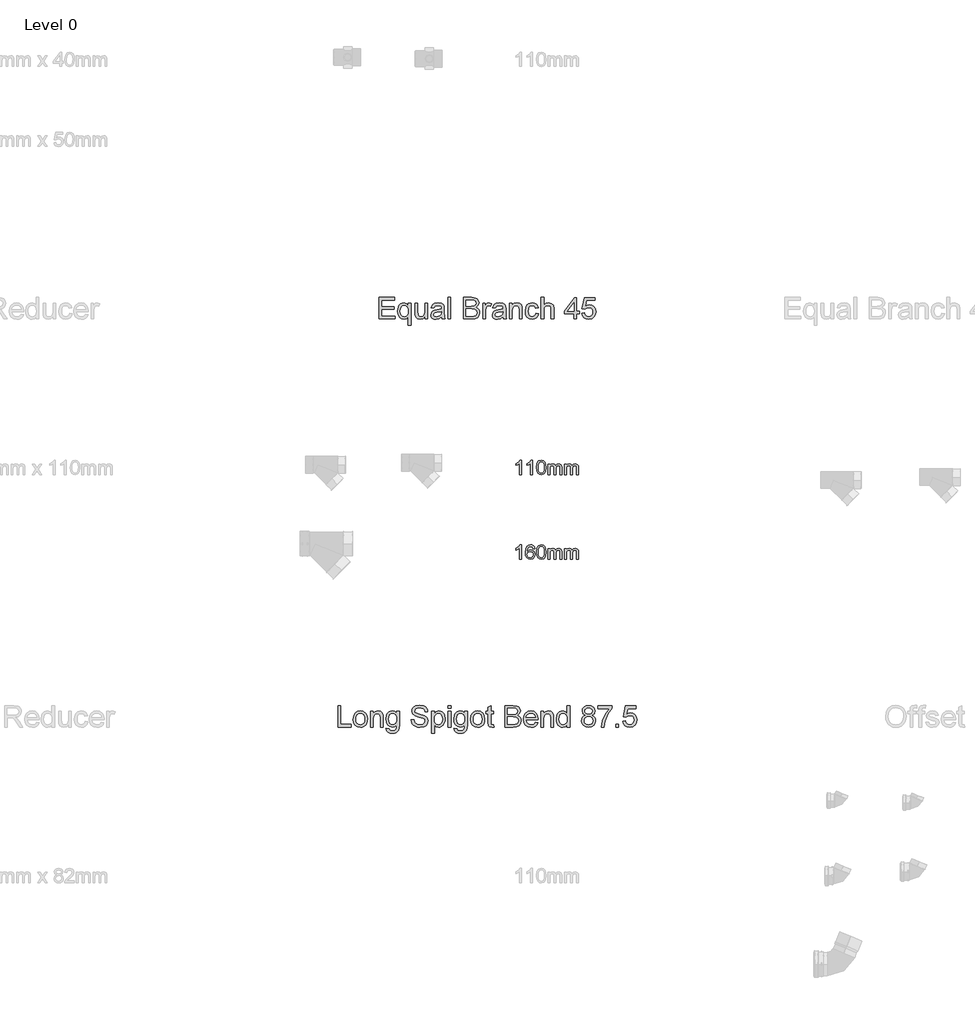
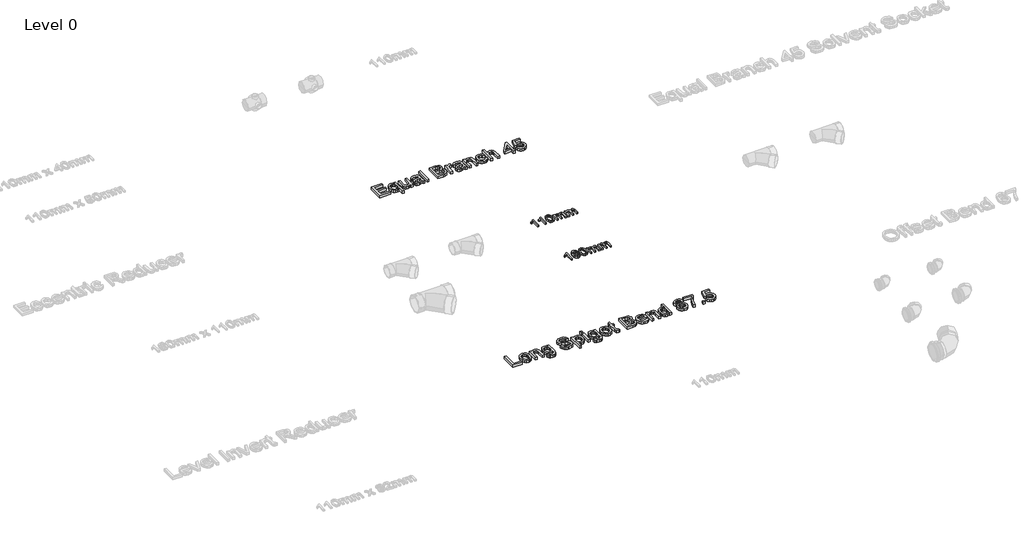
# One storey, part 15 of 28: 4 proxies.
"""IFC4 building model written with IfcOpenShell, lengths in millimetres."""

from ifc_helpers import new_model, si_unit, origin, origin_with_axes, place, context, project, spatial, polyline, outline, extrude, element, save

model = new_model("IFC4")

# Units and contexts
model_context = context("Model", 3, world=origin())
ifc_project = project(units=[si_unit("LENGTHUNIT", "METRE", prefix="MILLI")], contexts=[model_context])

# Site, building, storey
site = spatial("IfcSite", under=ifc_project)
building = spatial("IfcBuilding", under=site)
storey = spatial("IfcBuildingStorey", under=building, Name="Level 0", Elevation=0.0)

# Proxies
placement = place(None, origin())
element("IfcBuildingElementProxy", 1, Name="100mm Arial", ObjectType="100mm Arial", at=placement, inside=storey, context=model_context, shape_type="SweptSolid", body=[
    extrude(outline(polyline([(-13791.7293188, 2637.7167304), (-13804.0370111, 2637.7167304), (-13804.0370111, 2714.4474996), (-13815.6956649, 2706.1422111), (-13828.6523957, 2699.9282688), (-13828.6523957, 2711.5628842), (-13810.6115303, 2723.0773073), (-13799.6620111, 2736.1782688), (-13791.7293188, 2736.1782688), (-13791.7293188, 2637.7167304)])), origin_with_axes(), (0.0, 0.0, 1.0), 15.0),
    extrude(outline(polyline([(-13716.3447034, 2637.7167304), (-13728.6523957, 2637.7167304), (-13728.6523957, 2714.4474996), (-13740.3110495, 2706.1422111), (-13753.2677803, 2699.9282688), (-13753.2677803, 2711.5628842), (-13735.2269149, 2723.0773073), (-13724.2773957, 2736.1782688), (-13716.3447034, 2736.1782688), (-13716.3447034, 2637.7167304)])), origin_with_axes(), (0.0, 0.0, 1.0), 15.0),
    extrude(outline(polyline([(-13687.1139341, 2686.1542304), (-13683.4961457, 2714.4835573), (-13672.7509534, 2730.8176919), (-13654.8062418, 2736.1782688), (-13640.4312418, 2733.0051919), (-13630.5033572, 2723.8585573), (-13624.7341264, 2709.2912496), (-13622.4985495, 2686.1542304), (-13626.0802803, 2657.9450958), (-13636.7894149, 2641.5749035), (-13654.8062418, 2636.1782688), (-13667.5947034, 2638.5220188), (-13677.3062418, 2645.5532688), (-13684.6620111, 2662.2059131), (-13687.1139341, 2686.1542304)]), holes=[polyline([(-13674.8062418, 2686.1782688), (-13673.3639341, 2666.8182929), (-13669.0370111, 2655.613365), (-13662.5947034, 2650.2678121), (-13654.8062418, 2648.4859611), (-13647.0177803, 2650.2738217), (-13640.5754726, 2655.6374035), (-13636.2485495, 2666.848341), (-13634.8062418, 2686.1782688), (-13636.2004726, 2705.1025477), (-13640.3831649, 2716.394615), (-13646.8134534, 2722.0015861), (-13654.9504726, 2723.8705765), (-13662.6547995, 2722.2239419), (-13668.8447034, 2717.2840381), (-13673.3158572, 2705.2888458), (-13674.8062418, 2686.1782688)])]), origin_with_axes(), (0.0, 0.0, 1.0), 15.0),
    extrude(outline(polyline([(-13608.6523957, 2637.7167304), (-13608.6523957, 2710.0244227), (-13596.3447034, 2710.0244227), (-13596.3447034, 2698.1253842), (-13587.8831649, 2707.8729804), (-13575.8398957, 2711.5628842), (-13563.5081649, 2707.800865), (-13556.7293188, 2697.2599996), (-13547.1259534, 2707.9871631), (-13534.9985495, 2711.5628842), (-13525.7467466, 2710.0755044), (-13518.9047995, 2705.613365), (-13514.6770351, 2698.0562736), (-13513.2677803, 2687.2840381), (-13513.2677803, 2637.7167304), (-13525.5754726, 2637.7167304), (-13525.5754726, 2681.9955765), (-13526.7172995, 2692.2720188), (-13530.8519149, 2697.332115), (-13537.8831649, 2699.2551919), (-13549.9865303, 2694.3273073), (-13554.8062418, 2678.5340381), (-13554.8062418, 2637.7167304), (-13567.1139341, 2637.7167304), (-13567.1139341, 2683.3657688), (-13569.9624918, 2695.2888458), (-13579.3014341, 2699.2551919), (-13588.4120111, 2696.6109611), (-13594.4697034, 2688.8705765), (-13596.3447034, 2674.1830765), (-13596.3447034, 2637.7167304), (-13608.6523957, 2637.7167304)])), origin_with_axes(), (0.0, 0.0, 1.0), 15.0),
    extrude(outline(polyline([(-13494.8062418, 2637.7167304), (-13494.8062418, 2710.0244227), (-13482.4985495, 2710.0244227), (-13482.4985495, 2698.1253842), (-13474.0370111, 2707.8729804), (-13461.9937418, 2711.5628842), (-13449.6620111, 2707.800865), (-13442.8831649, 2697.2599996), (-13433.2797995, 2707.9871631), (-13421.1523957, 2711.5628842), (-13411.9005928, 2710.0755044), (-13405.0586457, 2705.613365), (-13400.8308813, 2698.0562736), (-13399.4216264, 2687.2840381), (-13399.4216264, 2637.7167304), (-13411.7293188, 2637.7167304), (-13411.7293188, 2681.9955765), (-13412.8711457, 2692.2720188), (-13417.0057611, 2697.332115), (-13424.0370111, 2699.2551919), (-13436.1403764, 2694.3273073), (-13440.960088, 2678.5340381), (-13440.960088, 2637.7167304), (-13453.2677803, 2637.7167304), (-13453.2677803, 2683.3657688), (-13456.116338, 2695.2888458), (-13465.4552803, 2699.2551919), (-13474.5658572, 2696.6109611), (-13480.6235495, 2688.8705765), (-13482.4985495, 2674.1830765), (-13482.4985495, 2637.7167304), (-13494.8062418, 2637.7167304)])), origin_with_axes(), (0.0, 0.0, 1.0), 15.0),
])
element("IfcBuildingElementProxy", 2, Name="100mm Arial", ObjectType="100mm Arial", at=placement, inside=storey, context=model_context, shape_type="SweptSolid", body=[
    extrude(outline(polyline([(-13791.7293188, 2057.7167304), (-13804.0370111, 2057.7167304), (-13804.0370111, 2134.4474996), (-13815.6956649, 2126.1422111), (-13828.6523957, 2119.9282688), (-13828.6523957, 2131.5628842), (-13810.6115303, 2143.0773073), (-13799.6620111, 2156.1782688), (-13791.7293188, 2156.1782688), (-13791.7293188, 2057.7167304)])), origin_with_axes(), (0.0, 0.0, 1.0), 15.0),
    extrude(outline(polyline([(-13699.4216264, 2130.0244227), (-13711.7293188, 2128.4859611), (-13716.3927803, 2138.7503842), (-13728.7245111, 2143.8705765), (-13739.8302803, 2140.8898073), (-13748.2317226, 2129.6999035), (-13751.7293188, 2107.7648073), (-13740.8759534, 2117.5845188), (-13727.4264341, 2120.7936535), (-13716.0562418, 2118.6001438), (-13706.5129726, 2112.019615), (-13700.0406168, 2101.9655285), (-13697.8831649, 2089.3513458), (-13701.9456649, 2072.3681727), (-13713.1235495, 2060.3489419), (-13729.2533572, 2056.1782688), (-13743.2166986, 2058.9426919), (-13754.3374918, 2067.2359611), (-13761.6121313, 2081.8753842), (-13764.0370111, 2103.6782688), (-13761.3447034, 2128.19149), (-13753.2677803, 2144.9523073), (-13742.2401361, 2153.3717785), (-13727.9552803, 2156.1782688), (-13717.1560014, 2154.44149), (-13708.5081649, 2149.2311535), (-13702.4504726, 2140.9559131), (-13699.4216264, 2130.0244227)]), holes=[polyline([(-13751.7293188, 2089.5436535), (-13748.8807611, 2078.8825958), (-13741.3086457, 2071.1422111), (-13730.2148957, 2068.4859611), (-13722.0929005, 2069.8621631), (-13715.7076841, 2073.9907688), (-13711.5700639, 2080.4811535), (-13710.1908572, 2088.9426919), (-13711.5520351, 2097.0646871), (-13715.6355688, 2103.2575958), (-13730.7197034, 2108.4859611), (-13745.6115303, 2103.2575958), (-13750.1998716, 2097.2149275), (-13751.7293188, 2089.5436535)])]), origin_with_axes(), (0.0, 0.0, 1.0), 15.0),
    extrude(outline(polyline([(-13687.1139341, 2106.1542304), (-13683.4961457, 2134.4835573), (-13672.7509534, 2150.8176919), (-13654.8062418, 2156.1782688), (-13640.4312418, 2153.0051919), (-13630.5033572, 2143.8585573), (-13624.7341264, 2129.2912496), (-13622.4985495, 2106.1542304), (-13626.0802803, 2077.9450958), (-13636.7894149, 2061.5749035), (-13654.8062418, 2056.1782688), (-13667.5947034, 2058.5220188), (-13677.3062418, 2065.5532688), (-13684.6620111, 2082.2059131), (-13687.1139341, 2106.1542304)]), holes=[polyline([(-13674.8062418, 2106.1782688), (-13673.3639341, 2086.8182929), (-13669.0370111, 2075.613365), (-13662.5947034, 2070.2678121), (-13654.8062418, 2068.4859611), (-13647.0177803, 2070.2738217), (-13640.5754726, 2075.6374035), (-13636.2485495, 2086.848341), (-13634.8062418, 2106.1782688), (-13636.2004726, 2125.1025477), (-13640.3831649, 2136.394615), (-13646.8134534, 2142.0015861), (-13654.9504726, 2143.8705765), (-13662.6547995, 2142.2239419), (-13668.8447034, 2137.2840381), (-13673.3158572, 2125.2888458), (-13674.8062418, 2106.1782688)])]), origin_with_axes(), (0.0, 0.0, 1.0), 15.0),
    extrude(outline(polyline([(-13608.6523957, 2057.7167304), (-13608.6523957, 2130.0244227), (-13596.3447034, 2130.0244227), (-13596.3447034, 2118.1253842), (-13587.8831649, 2127.8729804), (-13575.8398957, 2131.5628842), (-13563.5081649, 2127.800865), (-13556.7293188, 2117.2599996), (-13547.1259534, 2127.9871631), (-13534.9985495, 2131.5628842), (-13525.7467466, 2130.0755044), (-13518.9047995, 2125.613365), (-13514.6770351, 2118.0562736), (-13513.2677803, 2107.2840381), (-13513.2677803, 2057.7167304), (-13525.5754726, 2057.7167304), (-13525.5754726, 2101.9955765), (-13526.7172995, 2112.2720188), (-13530.8519149, 2117.332115), (-13537.8831649, 2119.2551919), (-13549.9865303, 2114.3273073), (-13554.8062418, 2098.5340381), (-13554.8062418, 2057.7167304), (-13567.1139341, 2057.7167304), (-13567.1139341, 2103.3657688), (-13569.9624918, 2115.2888458), (-13579.3014341, 2119.2551919), (-13588.4120111, 2116.6109611), (-13594.4697034, 2108.8705765), (-13596.3447034, 2094.1830765), (-13596.3447034, 2057.7167304), (-13608.6523957, 2057.7167304)])), origin_with_axes(), (0.0, 0.0, 1.0), 15.0),
    extrude(outline(polyline([(-13494.8062418, 2057.7167304), (-13494.8062418, 2130.0244227), (-13482.4985495, 2130.0244227), (-13482.4985495, 2118.1253842), (-13474.0370111, 2127.8729804), (-13461.9937418, 2131.5628842), (-13449.6620111, 2127.800865), (-13442.8831649, 2117.2599996), (-13433.2797995, 2127.9871631), (-13421.1523957, 2131.5628842), (-13411.9005928, 2130.0755044), (-13405.0586457, 2125.613365), (-13400.8308813, 2118.0562736), (-13399.4216264, 2107.2840381), (-13399.4216264, 2057.7167304), (-13411.7293188, 2057.7167304), (-13411.7293188, 2101.9955765), (-13412.8711457, 2112.2720188), (-13417.0057611, 2117.332115), (-13424.0370111, 2119.2551919), (-13436.1403764, 2114.3273073), (-13440.960088, 2098.5340381), (-13440.960088, 2057.7167304), (-13453.2677803, 2057.7167304), (-13453.2677803, 2103.3657688), (-13456.116338, 2115.2888458), (-13465.4552803, 2119.2551919), (-13474.5658572, 2116.6109611), (-13480.6235495, 2108.8705765), (-13482.4985495, 2094.1830765), (-13482.4985495, 2057.7167304), (-13494.8062418, 2057.7167304)])), origin_with_axes(), (0.0, 0.0, 1.0), 15.0),
])
element("IfcBuildingElementProxy", 3, Name="150mm Arial", ObjectType="150mm Arial", at=placement, inside=storey, context=model_context, shape_type="SweptSolid", body=[
    extrude(outline(polyline([(-14768.6818358, 3705.2145219), (-14768.6818358, 3852.9068296), (-14662.5279897, 3852.9068296), (-14662.5279897, 3834.4452911), (-14750.2202973, 3834.4452911), (-14750.2202973, 3790.5991373), (-14667.1433743, 3790.5991373), (-14667.1433743, 3772.1375988), (-14750.2202973, 3772.1375988), (-14750.2202973, 3723.6760604), (-14660.2202973, 3723.6760604), (-14660.2202973, 3705.2145219), (-14768.6818358, 3705.2145219)])), origin_with_axes(), (0.0, 0.0, 1.0), 25.0),
    extrude(outline(polyline([(-14567.912605, 3663.6760604), (-14567.912605, 3719.9981758), (-14579.631355, 3707.7746181), (-14595.6409704, 3702.9068296), (-14613.1920522, 3706.7514811), (-14628.1289512, 3718.2854354), (-14638.351307, 3736.5171061), (-14641.7587589, 3760.4549065), (-14636.350105, 3789.697695), (-14629.7245041, 3801.0738969), (-14620.6650089, 3809.3130796), (-14609.8927733, 3814.3160844), (-14598.1289512, 3815.9837527), (-14580.9654897, 3810.8094738), (-14567.912605, 3795.2866373), (-14567.912605, 3813.6760604), (-14549.4510666, 3813.6760604), (-14549.4510666, 3663.6760604), (-14567.912605, 3663.6760604)]), holes=[polyline([(-14623.2972204, 3759.4452911), (-14621.2193959, 3742.7866373), (-14614.9859223, 3730.8875988), (-14605.8498046, 3723.7481758), (-14595.0640473, 3721.3683681), (-14584.7290113, 3723.6309883), (-14575.9354416, 3730.4188488), (-14569.9183142, 3741.8311085), (-14567.912605, 3757.9669258), (-14570.0264872, 3775.2160243), (-14576.3681339, 3787.58832), (-14585.5583382, 3795.0387407), (-14596.2178935, 3797.5222142), (-14606.6791315, 3795.2100147), (-14615.4186147, 3788.2734161), (-14621.327569, 3776.4419859), (-14623.2972204, 3759.4452911)])]), origin_with_axes(), (0.0, 0.0, 1.0), 25.0),
    extrude(outline(polyline([(-14452.5279897, 3705.2145219), (-14452.5279897, 3723.8563488), (-14466.9871243, 3708.1442094), (-14485.8452973, 3702.9068296), (-14503.2070762, 3706.5847142), (-14515.17823, 3715.8154835), (-14520.6770281, 3729.4092335), (-14521.7587589, 3746.572695), (-14521.7587589, 3813.6760604), (-14503.2972204, 3813.6760604), (-14503.2972204, 3755.2625988), (-14502.179432, 3736.4404835), (-14494.8777493, 3725.3888008), (-14481.1217397, 3721.3683681), (-14465.7070762, 3725.478945), (-14455.5207781, 3736.6748585), (-14452.5279897, 3757.2457719), (-14452.5279897, 3813.6760604), (-14434.0664512, 3813.6760604), (-14434.0664512, 3705.2145219), (-14452.5279897, 3705.2145219)])), origin_with_axes(), (0.0, 0.0, 1.0), 25.0),
    extrude(outline(polyline([(-14339.4510666, 3719.0606758), (-14357.3537108, 3706.5486565), (-14377.131355, 3702.9068296), (-14392.5595401, 3705.0973344), (-14403.9402493, 3711.6688488), (-14410.9579776, 3721.6478152), (-14413.2972204, 3734.0606758), (-14409.7635666, 3748.6640411), (-14400.4787108, 3759.2650027), (-14387.5520281, 3765.322695), (-14371.5784704, 3768.0991373), (-14339.5592397, 3774.4452911), (-14339.4510666, 3778.5558681), (-14340.7221002, 3786.7950508), (-14344.5352012, 3792.1856758), (-14353.0628454, 3796.1880796), (-14364.943855, 3797.5222142), (-14383.6217397, 3793.9705315), (-14392.5279897, 3781.3683681), (-14410.9895281, 3783.6760604), (-14403.0027493, 3801.7049065), (-14386.9210185, 3812.2698104), (-14362.5640473, 3815.9837527), (-14340.1902493, 3812.7025027), (-14327.5520281, 3804.46332), (-14321.8909704, 3791.9332719), (-14320.9895281, 3775.7794258), (-14320.9895281, 3752.8106758), (-14320.0520281, 3720.7373585), (-14316.3741435, 3705.2145219), (-14334.835682, 3705.2145219), (-14339.4510666, 3719.0606758)]), holes=[polyline([(-14339.4510666, 3755.9837527), (-14369.2347204, 3750.322695), (-14385.1181339, 3747.3299065), (-14392.3116435, 3742.4621181), (-14394.835682, 3735.3587527), (-14389.3368839, 3725.3707719), (-14373.2010666, 3721.3683681), (-14354.523182, 3725.7854354), (-14342.4799127, 3736.4765411), (-14339.5592397, 3750.7553873), (-14339.4510666, 3755.9837527)])]), origin_with_axes(), (0.0, 0.0, 1.0), 25.0),
    extrude(outline(polyline([(-14295.6049127, 3705.2145219), (-14295.6049127, 3852.9068296), (-14277.1433743, 3852.9068296), (-14277.1433743, 3705.2145219), (-14295.6049127, 3705.2145219)])), origin_with_axes(), (0.0, 0.0, 1.0), 25.0),
    extrude(outline(polyline([(-14189.4510666, 3705.2145219), (-14189.4510666, 3852.9068296), (-14133.0928935, 3852.9068296), (-14105.49073, 3848.5618777), (-14096.2148887, 3843.049558), (-14089.1926531, 3835.2025027), (-14083.2972204, 3816.3082719), (-14088.2551531, 3799.0546661), (-14103.2371243, 3785.9837527), (-14092.7758863, 3780.5210123), (-14085.0460185, 3772.2097142), (-14080.2728815, 3761.5997383), (-14078.6818358, 3749.2409642), (-14083.0267877, 3729.3912046), (-14093.7900089, 3715.2565892), (-14109.8537108, 3707.7565892), (-14133.5255858, 3705.2145219), (-14189.4510666, 3705.2145219)]), holes=[polyline([(-14170.9895281, 3723.6760604), (-14133.1289512, 3723.6760604), (-14119.4270281, 3724.3972142), (-14107.83448, 3728.4176469), (-14100.1541916, 3736.6207719), (-14097.1433743, 3749.0606758), (-14100.6770281, 3763.4116373), (-14112.1253454, 3771.9753392), (-14134.9318358, 3774.4452911), (-14170.9895281, 3774.4452911), (-14170.9895281, 3723.6760604)]), polyline([(-14170.9895281, 3792.9068296), (-14137.2755858, 3792.9068296), (-14117.5880858, 3794.4933681), (-14105.7431339, 3801.3263008), (-14101.7587589, 3813.3515411), (-14105.4727012, 3825.3948104), (-14116.1097204, 3832.5162046), (-14139.835682, 3834.4452911), (-14170.9895281, 3834.4452911), (-14170.9895281, 3792.9068296)])]), origin_with_axes(), (0.0, 0.0, 1.0), 25.0),
    extrude(outline(polyline([(-14055.6049127, 3705.2145219), (-14055.6049127, 3813.6760604), (-14039.4510666, 3813.6760604), (-14039.4510666, 3797.6303873), (-14027.9847204, 3812.4140411), (-14016.4462589, 3815.9837527), (-13997.912605, 3810.2866373), (-14004.0784704, 3793.7361565), (-14017.0592397, 3797.5222142), (-14027.4979416, 3793.8803873), (-14034.1505858, 3783.7842335), (-14037.1433743, 3762.2217335), (-14037.1433743, 3705.2145219), (-14055.6049127, 3705.2145219)])), origin_with_axes(), (0.0, 0.0, 1.0), 25.0),
    extrude(outline(polyline([(-13917.1433743, 3719.0606758), (-13935.0460185, 3706.5486565), (-13954.8236627, 3702.9068296), (-13970.2518478, 3705.0973344), (-13981.632557, 3711.6688488), (-13988.6502853, 3721.6478152), (-13990.9895281, 3734.0606758), (-13987.4558743, 3748.6640411), (-13978.1710185, 3759.2650027), (-13965.2443358, 3765.322695), (-13949.2707781, 3768.0991373), (-13917.2515473, 3774.4452911), (-13917.1433743, 3778.5558681), (-13918.4144079, 3786.7950508), (-13922.2275089, 3792.1856758), (-13930.7551531, 3796.1880796), (-13942.6361627, 3797.5222142), (-13961.3140473, 3793.9705315), (-13970.2202973, 3781.3683681), (-13988.6818358, 3783.6760604), (-13980.695057, 3801.7049065), (-13964.6133262, 3812.2698104), (-13940.256355, 3815.9837527), (-13917.882557, 3812.7025027), (-13905.2443358, 3804.46332), (-13899.5832781, 3791.9332719), (-13898.6818358, 3775.7794258), (-13898.6818358, 3752.8106758), (-13897.7443358, 3720.7373585), (-13894.0664512, 3705.2145219), (-13912.5279897, 3705.2145219), (-13917.1433743, 3719.0606758)]), holes=[polyline([(-13917.1433743, 3755.9837527), (-13946.9270281, 3750.322695), (-13962.8104416, 3747.3299065), (-13970.0039512, 3742.4621181), (-13972.5279897, 3735.3587527), (-13967.0291916, 3725.3707719), (-13950.8933743, 3721.3683681), (-13932.2154897, 3725.7854354), (-13920.1722204, 3736.4765411), (-13917.2515473, 3750.7553873), (-13917.1433743, 3755.9837527)])]), origin_with_axes(), (0.0, 0.0, 1.0), 25.0),
    extrude(outline(polyline([(-13873.2972204, 3705.2145219), (-13873.2972204, 3813.6760604), (-13854.835682, 3813.6760604), (-13854.835682, 3798.5318296), (-13840.7190954, 3811.6207719), (-13821.4462589, 3815.9837527), (-13804.0123647, 3812.4681277), (-13792.1133262, 3803.2373585), (-13786.5784704, 3789.6616373), (-13785.6049127, 3771.8130796), (-13785.6049127, 3705.2145219), (-13804.0664512, 3705.2145219), (-13804.0664512, 3769.3250988), (-13806.193855, 3785.6592335), (-13813.7118839, 3794.2950508), (-13826.3861627, 3797.5222142), (-13837.1989632, 3795.7103152), (-13846.4162108, 3790.2746181), (-13852.7308142, 3779.7728152), (-13854.835682, 3762.7625988), (-13854.835682, 3705.2145219), (-13873.2972204, 3705.2145219)])), origin_with_axes(), (0.0, 0.0, 1.0), 25.0),
    extrude(outline(polyline([(-13690.9895281, 3744.4452911), (-13672.5279897, 3742.1375988), (-13677.6752252, 3725.7178272), (-13687.3477012, 3713.3094738), (-13700.6349608, 3705.5074907), (-13716.6265473, 3702.9068296), (-13736.264468, 3706.5351349), (-13751.6205377, 3717.4200508), (-13761.5318959, 3735.0838128), (-13764.835682, 3759.0486565), (-13759.1926531, 3789.7157238), (-13752.0712589, 3801.2136205), (-13741.9931339, 3809.4212527), (-13729.936343, 3814.3431277), (-13716.8789512, 3815.9837527), (-13701.2794921, 3813.7301469), (-13688.8080377, 3806.9693296), (-13679.8612228, 3796.0618777), (-13674.835682, 3781.3683681), (-13693.2972204, 3779.0606758), (-13701.8609223, 3792.8888008), (-13716.7347204, 3797.5222142), (-13728.6653094, 3795.2415652), (-13738.1349608, 3788.3996181), (-13744.3143478, 3776.6267815), (-13746.3741435, 3759.5534642), (-13744.3594199, 3742.2502791), (-13738.3152493, 3730.4368777), (-13729.0168719, 3723.6354955), (-13717.2395281, 3721.3683681), (-13707.6797324, 3722.7836325), (-13699.8416916, 3727.0294258), (-13694.140069, 3734.213921), (-13690.9895281, 3744.4452911)])), origin_with_axes(), (0.0, 0.0, 1.0), 25.0),
    extrude(outline(polyline([(-13656.3741435, 3705.2145219), (-13656.3741435, 3852.9068296), (-13637.912605, 3852.9068296), (-13637.912605, 3798.603945), (-13623.5165714, 3811.6388008), (-13605.7852012, 3815.9837527), (-13585.0520281, 3811.2421661), (-13572.4678935, 3798.135195), (-13568.6818358, 3773.8683681), (-13568.6818358, 3705.2145219), (-13587.1433743, 3705.2145219), (-13587.1433743, 3771.9573104), (-13588.6127252, 3783.5138008), (-13593.0207781, 3791.4284642), (-13600.1241435, 3795.9987767), (-13609.679432, 3797.5222142), (-13624.8056339, 3793.4116373), (-13634.9017877, 3782.2698104), (-13637.912605, 3762.8347142), (-13637.912605, 3705.2145219), (-13656.3741435, 3705.2145219)])), origin_with_axes(), (0.0, 0.0, 1.0), 25.0),
    extrude(outline(polyline([(-13430.2202973, 3705.2145219), (-13430.2202973, 3739.8299065), (-13497.1433743, 3739.8299065), (-13497.1433743, 3758.291445), (-13425.6049127, 3850.5991373), (-13411.7587589, 3850.5991373), (-13411.7587589, 3758.291445), (-13393.2972204, 3758.291445), (-13393.2972204, 3739.8299065), (-13411.7587589, 3739.8299065), (-13411.7587589, 3705.2145219), (-13430.2202973, 3705.2145219)]), holes=[polyline([(-13430.2202973, 3758.291445), (-13430.2202973, 3815.3347142), (-13474.4270281, 3758.291445), (-13430.2202973, 3758.291445)])]), origin_with_axes(), (0.0, 0.0, 1.0), 25.0),
    extrude(outline(polyline([(-13377.1433743, 3744.4452911), (-13358.6818358, 3746.7529835), (-13355.2924127, 3735.6697503), (-13349.3789512, 3727.7325508), (-13340.9684945, 3722.9594137), (-13330.0880858, 3721.3683681), (-13316.8549127, 3723.5814089), (-13306.9390473, 3730.2205315), (-13300.7461387, 3740.5195099), (-13298.6818358, 3753.7121181), (-13300.6154296, 3766.1339931), (-13306.4162108, 3775.635195), (-13316.1292517, 3781.665844), (-13329.7996243, 3783.6760604), (-13346.007557, 3780.4669258), (-13356.3741435, 3772.1375988), (-13374.835682, 3774.4452911), (-13358.6818358, 3850.5991373), (-13287.1433743, 3850.5991373), (-13287.1433743, 3832.1375988), (-13343.7539512, 3832.1375988), (-13351.6505858, 3791.4645219), (-13338.4624848, 3799.4693296), (-13324.6433743, 3802.1375988), (-13307.3942757, 3798.8293056), (-13293.0748647, 3788.9044258), (-13283.4339392, 3773.7782238), (-13280.2202973, 3754.8659642), (-13283.1139272, 3736.4044258), (-13291.7948166, 3720.6111565), (-13308.4174127, 3707.3329113), (-13330.1602012, 3702.9068296), (-13348.2927132, 3705.7508801), (-13362.7383262, 3714.2830315), (-13372.6406699, 3727.5116974), (-13377.1433743, 3744.4452911)])), origin_with_axes(), (0.0, 0.0, 1.0), 25.0),
])
element("IfcBuildingElementProxy", 4, Name="150mm Arial", ObjectType="150mm Arial", at=placement, inside=storey, context=model_context, shape_type="SweptSolid", body=[
    extrude(outline(polyline([(-15051.3741435, 905.2145219), (-15051.3741435, 1052.9068296), (-15032.912605, 1052.9068296), (-15032.912605, 923.6760604), (-14959.0664512, 923.6760604), (-14959.0664512, 905.2145219), (-15051.3741435, 905.2145219)])), origin_with_axes(), (0.0, 0.0, 1.0), 25.0),
    extrude(outline(polyline([(-14945.2202973, 959.4452911), (-14941.2269079, 985.5961325), (-14929.2467397, 1003.9765411), (-14914.445057, 1012.9819498), (-14896.7227012, 1015.9837527), (-14877.3281699, 1012.3284041), (-14861.8368839, 1001.3623585), (-14851.6821363, 983.9510003), (-14848.2972204, 960.9597142), (-14849.7936147, 942.3088729), (-14854.2827973, 928.1111565), (-14861.6340594, 917.4786445), (-14871.7166916, 909.5234161), (-14883.6923526, 904.5609762), (-14896.7227012, 902.9068296), (-14916.3516074, 906.5486565), (-14931.8248647, 917.4741373), (-14941.8714392, 935.2505796), (-14945.2202973, 959.4452911)]), holes=[polyline([(-14926.7587589, 959.4813488), (-14924.6223406, 942.7731157), (-14918.2130858, 930.86957), (-14908.5676531, 923.7436686), (-14896.7227012, 921.3683681), (-14884.9318358, 923.7571902), (-14875.304432, 930.9236565), (-14868.8951772, 942.9849546), (-14866.7587589, 960.0582719), (-14868.9086988, 976.2797262), (-14875.3585185, 988.0210123), (-14884.999444, 995.1469137), (-14896.7227012, 997.5222142), (-14908.5676531, 995.1559282), (-14918.2130858, 988.05707), (-14924.6223406, 976.1805676), (-14926.7587589, 959.4813488)])]), origin_with_axes(), (0.0, 0.0, 1.0), 25.0),
    extrude(outline(polyline([(-14827.5279897, 905.2145219), (-14827.5279897, 1013.6760604), (-14809.0664512, 1013.6760604), (-14809.0664512, 998.5318296), (-14794.9498647, 1011.6207719), (-14775.6770281, 1015.9837527), (-14758.2431339, 1012.4681277), (-14746.3440954, 1003.2373585), (-14740.8092397, 989.6616373), (-14739.835682, 971.8130796), (-14739.835682, 905.2145219), (-14758.2972204, 905.2145219), (-14758.2972204, 969.3250988), (-14760.4246243, 985.6592335), (-14767.9426531, 994.2950508), (-14780.616932, 997.5222142), (-14791.4297324, 995.7103152), (-14800.64698, 990.2746181), (-14806.9615834, 979.7728152), (-14809.0664512, 962.7625988), (-14809.0664512, 905.2145219), (-14827.5279897, 905.2145219)])), origin_with_axes(), (0.0, 0.0, 1.0), 25.0),
    extrude(outline(polyline([(-14719.0664512, 895.9837527), (-14700.6049127, 893.6760604), (-14694.6193358, 883.9404835), (-14676.6986627, 879.8299065), (-14657.804432, 884.4813488), (-14648.7900089, 897.5342335), (-14647.5279897, 919.0606758), (-14660.5267877, 908.6760604), (-14676.3741435, 905.2145219), (-14695.4080978, 909.243969), (-14709.601307, 921.3323104), (-14718.4309344, 939.0546661), (-14721.3741435, 959.9861565), (-14716.0916916, 988.5979354), (-14709.6283502, 1000.2130195), (-14700.80323, 1008.8443296), (-14689.9183142, 1014.1988969), (-14677.2755858, 1015.9837527), (-14660.8062348, 1011.9452911), (-14647.5279897, 999.8299065), (-14647.5279897, 1013.6760604), (-14629.0664512, 1013.6760604), (-14629.0664512, 920.0342335), (-14630.3284704, 898.4131397), (-14634.1145281, 884.1748585), (-14640.6364632, 874.7322503), (-14650.1061147, 867.4981758), (-14662.3161507, 862.90082), (-14677.0592397, 861.3683681), (-14694.2362228, 863.5273224), (-14707.7623647, 870.0041854), (-14716.4387469, 880.8169859), (-14719.0664512, 895.9837527)]), holes=[polyline([(-14702.912605, 961.2481758), (-14700.9429536, 944.314582), (-14695.0339993, 932.6724546), (-14686.1502853, 925.9251589), (-14675.256355, 923.6760604), (-14664.4435546, 925.9116373), (-14655.5147685, 932.6183681), (-14649.5246844, 944.1117575), (-14647.5279897, 960.7073104), (-14649.5832781, 976.7124186), (-14655.7491435, 988.2373585), (-14664.8086387, 995.2010003), (-14675.5448166, 997.5222142), (-14686.0871844, 995.237058), (-14694.9258262, 988.3815892), (-14700.9159103, 977.0279234), (-14702.912605, 961.2481758)])]), origin_with_axes(), (0.0, 0.0, 1.0), 25.0),
    extrude(outline(polyline([(-14548.2972204, 955.9837527), (-14529.835682, 955.9837527), (-14523.8861627, 937.5041854), (-14509.3549127, 925.8214931), (-14487.2154897, 921.3683681), (-14467.9246243, 924.7397623), (-14455.4666916, 934.0065892), (-14451.3741435, 946.3924065), (-14454.4390473, 957.9128392), (-14466.9871243, 966.2962527), (-14493.8681339, 973.3455315), (-14522.804432, 982.4500988), (-14538.507557, 996.1880796), (-14543.6818358, 1014.541445), (-14542.0817757, 1025.3542455), (-14537.2815954, 1035.4368777), (-14529.4074969, 1043.9825508), (-14518.585682, 1050.1844738), (-14491.2178935, 1055.2145219), (-14462.0111627, 1049.9500988), (-14450.8152493, 1043.4506998), (-14442.5400089, 1034.4813488), (-14437.3026291, 1023.6009402), (-14435.2202973, 1011.3683681), (-14453.6818358, 1011.3683681), (-14457.0712589, 1022.3839931), (-14464.1385666, 1030.3347142), (-14475.1812348, 1035.1484161), (-14490.4967397, 1036.7529835), (-14506.1728214, 1035.166445), (-14516.9270281, 1030.4068296), (-14523.14698, 1023.4026229), (-14525.2202973, 1015.0823104), (-14523.7509464, 1007.9879594), (-14519.3428935, 1002.2818296), (-14489.1986627, 991.9693296), (-14456.5303935, 982.7025027), (-14446.0060546, 976.0047863), (-14438.663807, 967.7385604), (-14432.912605, 946.8611565), (-14434.5667517, 935.4804474), (-14439.5291916, 924.77582), (-14447.5971002, 915.5630796), (-14458.5676531, 908.6580315), (-14486.4943358, 902.9068296), (-14504.5817757, 904.4573104), (-14519.4690954, 909.1087527), (-14531.327569, 916.8791854), (-14540.3284704, 927.7866373), (-14546.1067156, 941.0738969), (-14548.2972204, 955.9837527)])), origin_with_axes(), (0.0, 0.0, 1.0), 25.0),
    extrude(outline(polyline([(-14407.5279897, 863.6760604), (-14407.5279897, 1013.6760604), (-14389.0664512, 1013.6760604), (-14389.0664512, 995.5750988), (-14376.3020281, 1010.8815892), (-14359.0664512, 1015.9837527), (-14346.5814752, 1014.1988969), (-14335.6650089, 1008.8443296), (-14326.7767877, 1000.24457), (-14320.3765473, 988.7241373), (-14315.2202973, 960.2746181), (-14316.6761267, 944.4858561), (-14321.0436147, 930.3647623), (-14328.1830377, 918.6279835), (-14337.9546723, 909.9921661), (-14349.3353815, 904.6781637), (-14361.3020281, 902.9068296), (-14377.36573, 907.6484161), (-14389.0664512, 919.6375988), (-14389.0664512, 863.6760604), (-14407.5279897, 863.6760604)]), holes=[polyline([(-14389.0664512, 958.5799065), (-14387.0697565, 942.0294258), (-14381.0796723, 930.4549065), (-14372.2410305, 923.6400027), (-14361.6986627, 921.3683681), (-14350.9850209, 923.7211325), (-14341.9210185, 930.7794258), (-14335.7416315, 942.7776229), (-14333.6818358, 959.9500988), (-14335.6920522, 976.4104354), (-14341.7227012, 988.1472142), (-14350.5478214, 995.1784642), (-14360.9414512, 997.5222142), (-14371.3756459, 995.0297262), (-14380.538807, 987.5522623), (-14386.9345401, 975.3241974), (-14389.0664512, 958.5799065)])]), origin_with_axes(), (0.0, 0.0, 1.0), 25.0),
    extrude(outline(polyline([(-14294.4510666, 1034.4452911), (-14294.4510666, 1052.9068296), (-14275.9895281, 1052.9068296), (-14275.9895281, 1034.4452911), (-14294.4510666, 1034.4452911)])), origin_with_axes(), (0.0, 0.0, 1.0), 25.0),
    extrude(outline(polyline([(-14294.4510666, 905.2145219), (-14294.4510666, 1013.6760604), (-14275.9895281, 1013.6760604), (-14275.9895281, 905.2145219), (-14294.4510666, 905.2145219)])), origin_with_axes(), (0.0, 0.0, 1.0), 25.0),
    extrude(outline(polyline([(-14252.912605, 895.9837527), (-14234.4510666, 893.6760604), (-14228.4654897, 883.9404835), (-14210.5448166, 879.8299065), (-14191.6505858, 884.4813488), (-14182.6361627, 897.5342335), (-14181.3741435, 919.0606758), (-14194.3729416, 908.6760604), (-14210.2202973, 905.2145219), (-14229.2542517, 909.243969), (-14243.4474608, 921.3323104), (-14252.2770882, 939.0546661), (-14255.2202973, 959.9861565), (-14249.9378454, 988.5979354), (-14243.4745041, 1000.2130195), (-14234.6493839, 1008.8443296), (-14223.764468, 1014.1988969), (-14211.1217397, 1015.9837527), (-14194.6523887, 1011.9452911), (-14181.3741435, 999.8299065), (-14181.3741435, 1013.6760604), (-14162.912605, 1013.6760604), (-14162.912605, 920.0342335), (-14164.1746243, 898.4131397), (-14167.960682, 884.1748585), (-14174.4826171, 874.7322503), (-14183.9522685, 867.4981758), (-14196.1623046, 862.90082), (-14210.9053935, 861.3683681), (-14228.0823767, 863.5273224), (-14241.6085185, 870.0041854), (-14250.2849007, 880.8169859), (-14252.912605, 895.9837527)]), holes=[polyline([(-14236.7587589, 961.2481758), (-14234.7891074, 944.314582), (-14228.8801531, 932.6724546), (-14219.9964392, 925.9251589), (-14209.1025089, 923.6760604), (-14198.2897084, 925.9116373), (-14189.3609223, 932.6183681), (-14183.3708382, 944.1117575), (-14181.3741435, 960.7073104), (-14183.429432, 976.7124186), (-14189.5952973, 988.2373585), (-14198.6547925, 995.2010003), (-14209.3909704, 997.5222142), (-14219.9333382, 995.237058), (-14228.77198, 988.3815892), (-14234.7620642, 977.0279234), (-14236.7587589, 961.2481758)])]), origin_with_axes(), (0.0, 0.0, 1.0), 25.0),
    extrude(outline(polyline([(-14139.835682, 959.4452911), (-14135.8422925, 985.5961325), (-14123.8621243, 1003.9765411), (-14109.0604416, 1012.9819498), (-14091.3380858, 1015.9837527), (-14071.9435546, 1012.3284041), (-14056.4522685, 1001.3623585), (-14046.2975209, 983.9510003), (-14042.912605, 960.9597142), (-14044.4089993, 942.3088729), (-14048.898182, 928.1111565), (-14056.249444, 917.4786445), (-14066.3320762, 909.5234161), (-14078.3077372, 904.5609762), (-14091.3380858, 902.9068296), (-14110.9669921, 906.5486565), (-14126.4402493, 917.4741373), (-14136.4868238, 935.2505796), (-14139.835682, 959.4452911)]), holes=[polyline([(-14121.3741435, 959.4813488), (-14119.2377252, 942.7731157), (-14112.8284704, 930.86957), (-14103.1830377, 923.7436686), (-14091.3380858, 921.3683681), (-14079.5472204, 923.7571902), (-14069.9198166, 930.9236565), (-14063.5105618, 942.9849546), (-14061.3741435, 960.0582719), (-14063.5240834, 976.2797262), (-14069.9739031, 988.0210123), (-14079.6148286, 995.1469137), (-14091.3380858, 997.5222142), (-14103.1830377, 995.1559282), (-14112.8284704, 988.05707), (-14119.2377252, 976.1805676), (-14121.3741435, 959.4813488)])]), origin_with_axes(), (0.0, 0.0, 1.0), 25.0),
    extrude(outline(polyline([(-13982.912605, 920.6111565), (-13980.6049127, 904.6736565), (-13994.4150089, 902.9068296), (-14009.8837589, 905.9717335), (-14017.600105, 914.0125988), (-14019.835682, 934.9621181), (-14019.835682, 995.2145219), (-14033.6818358, 995.2145219), (-14033.6818358, 1013.6760604), (-14019.835682, 1013.6760604), (-14019.835682, 1040.0342335), (-14001.3741435, 1050.8875988), (-14001.3741435, 1013.6760604), (-13982.912605, 1013.6760604), (-13982.912605, 995.2145219), (-14001.3741435, 995.2145219), (-14001.3741435, 935.5029835), (-14000.4005858, 925.9837527), (-13997.2455377, 922.6123585), (-13990.9534704, 921.3683681), (-13982.912605, 920.6111565)])), origin_with_axes(), (0.0, 0.0, 1.0), 25.0),
    extrude(outline(polyline([(-13904.4510666, 905.2145219), (-13904.4510666, 1052.9068296), (-13848.0928935, 1052.9068296), (-13820.49073, 1048.5618777), (-13811.2148887, 1043.049558), (-13804.1926531, 1035.2025027), (-13798.2972204, 1016.3082719), (-13803.2551531, 999.0546661), (-13818.2371243, 985.9837527), (-13807.7758863, 980.5210123), (-13800.0460185, 972.2097142), (-13795.2728815, 961.5997383), (-13793.6818358, 949.2409642), (-13798.0267877, 929.3912046), (-13808.7900089, 915.2565892), (-13824.8537108, 907.7565892), (-13848.5255858, 905.2145219), (-13904.4510666, 905.2145219)]), holes=[polyline([(-13885.9895281, 923.6760604), (-13848.1289512, 923.6760604), (-13834.4270281, 924.3972142), (-13822.83448, 928.4176469), (-13815.1541916, 936.6207719), (-13812.1433743, 949.0606758), (-13815.6770281, 963.4116373), (-13827.1253454, 971.9753392), (-13849.9318358, 974.4452911), (-13885.9895281, 974.4452911), (-13885.9895281, 923.6760604)]), polyline([(-13885.9895281, 992.9068296), (-13852.2755858, 992.9068296), (-13832.5880858, 994.4933681), (-13820.7431339, 1001.3263008), (-13816.7587589, 1013.3515411), (-13820.4727012, 1025.3948104), (-13831.1097204, 1032.5162046), (-13854.835682, 1034.4452911), (-13885.9895281, 1034.4452911), (-13885.9895281, 992.9068296)])]), origin_with_axes(), (0.0, 0.0, 1.0), 25.0),
    extrude(outline(polyline([(-13694.6674127, 937.5222142), (-13676.5664512, 935.2145219), (-13683.0883863, 921.5756998), (-13693.4955377, 911.3803873), (-13707.5535305, 905.025219), (-13725.0279897, 902.9068296), (-13746.6896483, 906.5621782), (-13763.3573166, 917.5282238), (-13773.9853214, 935.0928272), (-13777.5279897, 958.5438488), (-13773.9492637, 982.7836325), (-13763.2130858, 1000.9116373), (-13746.7707781, 1012.2157238), (-13726.0736627, 1015.9837527), (-13706.0210786, 1012.2247383), (-13689.9979416, 1000.947695), (-13679.4916315, 982.8557479), (-13675.9895281, 958.6520219), (-13676.0977012, 953.6760604), (-13759.0664512, 953.6760604), (-13755.8708382, 939.8569498), (-13748.4474608, 929.697695), (-13737.733819, 923.4506998), (-13724.6674127, 921.3683681), (-13706.5664512, 925.2265411), (-13694.6674127, 937.5222142)]), holes=[polyline([(-13759.0664512, 972.1375988), (-13694.4510666, 972.1375988), (-13696.9480618, 981.8912046), (-13701.8428935, 988.8683681), (-13712.6061147, 995.3587527), (-13726.1457781, 997.5222142), (-13738.5901892, 995.7959522), (-13748.8801531, 990.6171661), (-13756.0330978, 982.5447503), (-13759.0664512, 972.1375988)])]), origin_with_axes(), (0.0, 0.0, 1.0), 25.0),
    extrude(outline(polyline([(-13657.5279897, 905.2145219), (-13657.5279897, 1013.6760604), (-13639.0664512, 1013.6760604), (-13639.0664512, 998.5318296), (-13624.9498647, 1011.6207719), (-13605.6770281, 1015.9837527), (-13588.2431339, 1012.4681277), (-13576.3440954, 1003.2373585), (-13570.8092397, 989.6616373), (-13569.835682, 971.8130796), (-13569.835682, 905.2145219), (-13588.2972204, 905.2145219), (-13588.2972204, 969.3250988), (-13590.4246243, 985.6592335), (-13597.9426531, 994.2950508), (-13610.616932, 997.5222142), (-13621.4297324, 995.7103152), (-13630.64698, 990.2746181), (-13636.9615834, 979.7728152), (-13639.0664512, 962.7625988), (-13639.0664512, 905.2145219), (-13657.5279897, 905.2145219)])), origin_with_axes(), (0.0, 0.0, 1.0), 25.0),
    extrude(outline(polyline([(-13477.5279897, 905.2145219), (-13477.5279897, 922.6303873), (-13489.7425329, 907.837719), (-13506.6265473, 902.9068296), (-13518.5616435, 904.6916854), (-13529.4871243, 910.0462527), (-13538.7359223, 918.596433), (-13545.6409704, 929.9681277), (-13549.9408502, 943.7016012), (-13551.3741435, 959.3371181), (-13546.0916916, 988.7241373), (-13539.4931339, 1000.3797863), (-13530.2623647, 1008.9525027), (-13519.0980017, 1014.2259402), (-13506.6986627, 1015.9837527), (-13489.679432, 1010.9537046), (-13477.5279897, 997.8827911), (-13477.5279897, 1052.9068296), (-13459.0664512, 1052.9068296), (-13459.0664512, 905.2145219), (-13477.5279897, 905.2145219)]), holes=[polyline([(-13532.912605, 959.4092335), (-13530.8302733, 942.7100147), (-13524.5832781, 930.8335123), (-13515.5057541, 923.7346541), (-13504.9318358, 921.3683681), (-13494.3624247, 923.6264811), (-13485.5147685, 930.40082), (-13479.5246844, 941.8175868), (-13477.5279897, 958.0029835), (-13479.5607421, 975.698296), (-13485.6589993, 987.9669258), (-13494.7320161, 995.1333921), (-13505.6890473, 997.5222142), (-13516.3711387, 995.2280436), (-13525.1241435, 988.3455315), (-13530.9654897, 976.5231157), (-13532.912605, 959.4092335)])]), origin_with_axes(), (0.0, 0.0, 1.0), 25.0),
    extrude(outline(polyline([(-13351.398182, 986.5606758), (-13368.2190954, 998.0270219), (-13373.6818358, 1015.8755796), (-13370.7070762, 1030.307671), (-13361.7827973, 1042.2337527), (-13347.9096002, 1050.2385604), (-13330.0880858, 1052.9068296), (-13312.1583983, 1050.1754594), (-13298.1049127, 1041.9813488), (-13289.0183743, 1029.8659642), (-13285.9895281, 1015.3707719), (-13291.3801531, 997.9729354), (-13307.7323166, 986.5606758), (-13296.3696363, 980.705808), (-13288.0989031, 972.0835123), (-13283.0553334, 961.1084522), (-13281.3741435, 948.1952911), (-13284.70948, 930.5450508), (-13294.7154897, 915.9597142), (-13310.1662108, 906.1700508), (-13329.835682, 902.9068296), (-13349.5051531, 906.1835724), (-13364.9558743, 916.0138008), (-13374.9618839, 930.7388609), (-13378.2972204, 948.7000988), (-13376.5484223, 962.1135604), (-13371.3020281, 973.1472142), (-13362.8284704, 981.4224546), (-13351.398182, 986.5606758)]), holes=[polyline([(-13355.2202973, 1015.3347142), (-13353.5841796, 1007.27582), (-13348.6758262, 1000.8395219), (-13340.639468, 996.6207719), (-13329.6193358, 995.2145219), (-13318.8561147, 996.6117575), (-13310.9414512, 1000.8034642), (-13306.0736627, 1007.0234161), (-13304.4510666, 1014.5053873), (-13306.1277493, 1022.2713128), (-13311.1577973, 1028.6940892), (-13319.1806339, 1033.0074907), (-13329.835682, 1034.4452911), (-13340.5583382, 1033.0390411), (-13348.5676531, 1028.8202911), (-13353.5571363, 1022.6363969), (-13355.2202973, 1015.3347142)]), polyline([(-13359.835682, 949.3491373), (-13356.7527493, 935.4488969), (-13345.8452973, 925.0462527), (-13329.6914512, 921.3683681), (-13317.1253454, 923.3019618), (-13307.6962589, 929.1027431), (-13301.8008262, 937.8872984), (-13299.835682, 948.7722142), (-13301.8639272, 959.8419258), (-13307.9486627, 968.8202911), (-13317.5940954, 974.7698104), (-13330.304432, 976.7529835), (-13342.6947565, 974.7968536), (-13352.0291916, 968.9284642), (-13357.8840594, 960.1213729), (-13359.835682, 949.3491373)])]), origin_with_axes(), (0.0, 0.0, 1.0), 25.0),
    extrude(outline(polyline([(-13265.2202973, 1032.1375988), (-13265.2202973, 1050.5991373), (-13168.2972204, 1050.5991373), (-13168.2972204, 1035.6712527), (-13195.7912108, 995.9537046), (-13216.8308743, 945.3467335), (-13223.6818358, 905.2145219), (-13242.1433743, 905.2145219), (-13234.8056339, 946.8611565), (-13214.6674127, 993.9344738), (-13186.7587589, 1032.1375988), (-13265.2202973, 1032.1375988)])), origin_with_axes(), (0.0, 0.0, 1.0), 25.0),
    extrude(outline(polyline([(-13142.912605, 905.2145219), (-13142.912605, 923.6760604), (-13124.4510666, 923.6760604), (-13124.4510666, 905.2145219), (-13142.912605, 905.2145219)])), origin_with_axes(), (0.0, 0.0, 1.0), 25.0),
    extrude(outline(polyline([(-13094.4510666, 944.4452911), (-13075.9895281, 946.7529835), (-13072.600105, 935.6697503), (-13066.6866435, 927.7325508), (-13058.2761868, 922.9594137), (-13047.3957781, 921.3683681), (-13034.162605, 923.5814089), (-13024.2467397, 930.2205315), (-13018.053831, 940.5195099), (-13015.9895281, 953.7121181), (-13017.9231219, 966.1339931), (-13023.7239031, 975.635195), (-13033.436944, 981.665844), (-13047.1073166, 983.6760604), (-13063.3152493, 980.4669258), (-13073.6818358, 972.1375988), (-13092.1433743, 974.4452911), (-13075.9895281, 1050.5991373), (-13004.4510666, 1050.5991373), (-13004.4510666, 1032.1375988), (-13061.0616435, 1032.1375988), (-13068.9582781, 991.4645219), (-13055.7701772, 999.4693296), (-13041.9510666, 1002.1375988), (-13024.701968, 998.8293056), (-13010.382557, 988.9044258), (-13000.7416315, 973.7782238), (-12997.5279897, 954.8659642), (-13000.4216195, 936.4044258), (-13009.1025089, 920.6111565), (-13025.725105, 907.3329113), (-13047.4678935, 902.9068296), (-13065.6004055, 905.7508801), (-13080.0460185, 914.2830315), (-13089.9483622, 927.5116974), (-13094.4510666, 944.4452911)])), origin_with_axes(), (0.0, 0.0, 1.0), 25.0),
])

save(model, "model.ifc")
